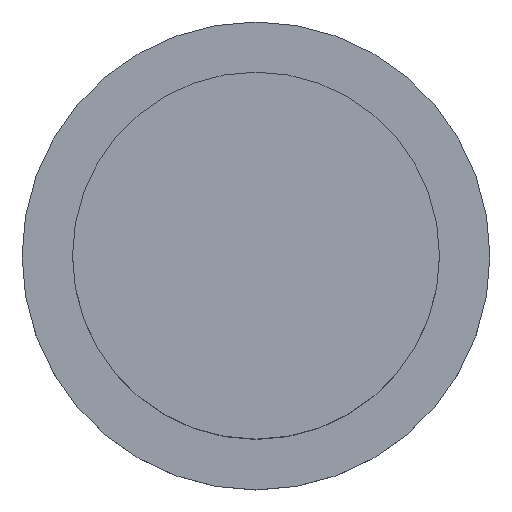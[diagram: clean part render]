
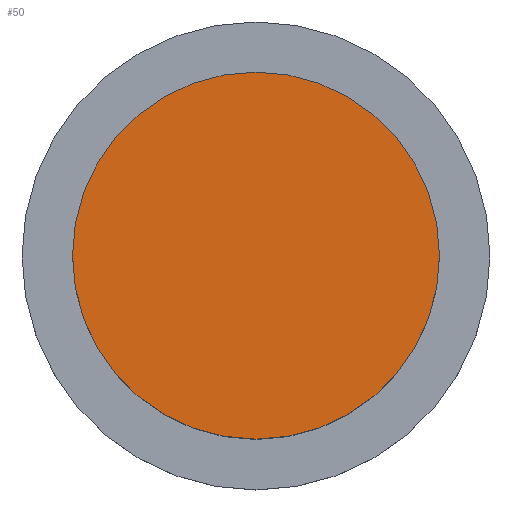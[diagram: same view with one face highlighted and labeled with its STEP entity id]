
A CAD part, top view. The second image highlights one B-rep face of the part: STEP entity #50.
In plain terms, the highlighted planar face has unit normal (0, 0, 1).
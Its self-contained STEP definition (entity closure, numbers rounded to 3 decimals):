
#21 = EDGE_CURVE('',#22,#22,#24,.T.);
#22 = VERTEX_POINT('',#23);
#23 = CARTESIAN_POINT('',(35.,-65.,1.6));
#24 = CIRCLE('',#25,4.);
#25 = AXIS2_PLACEMENT_3D('',#26,#27,#28);
#26 = CARTESIAN_POINT('',(31.,-65.,1.6));
#27 = DIRECTION('',(0.,0.,1.));
#28 = DIRECTION('',(1.,0.,0.));
#50 = ADVANCED_FACE('',(#51),#54,.T.);
#51 = FACE_BOUND('',#52,.T.);
#52 = EDGE_LOOP('',(#53));
#53 = ORIENTED_EDGE('',*,*,#21,.T.);
#54 = PLANE('',#55);
#55 = AXIS2_PLACEMENT_3D('',#56,#57,#58);
#56 = CARTESIAN_POINT('',(31.,-65.,1.6));
#57 = DIRECTION('',(0.,0.,1.));
#58 = DIRECTION('',(1.,0.,0.));
